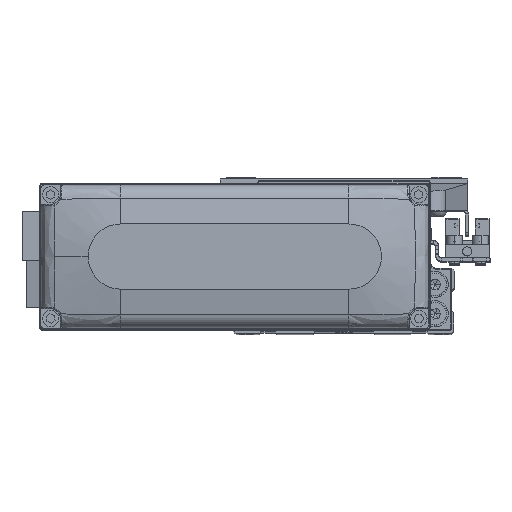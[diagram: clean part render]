
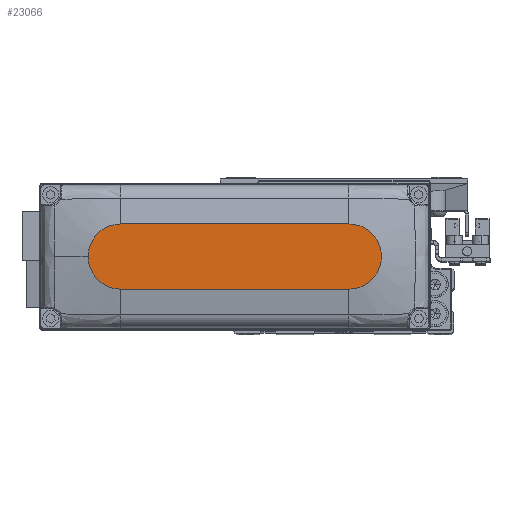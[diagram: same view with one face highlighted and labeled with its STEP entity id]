
A CAD part, top view. The second image highlights one B-rep face of the part: STEP entity #23066.
In plain terms, the highlighted planar face has unit normal (0, 0, 1).
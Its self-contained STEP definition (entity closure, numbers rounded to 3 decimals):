
#947 = LINE ( 'NONE', #14070, #11253 ) ;
#1660 = AXIS2_PLACEMENT_3D ( 'NONE', #10919, #24031, #37150 ) ;
#3332 = DIRECTION ( 'NONE',  ( -1., 0., 0. ) ) ;
#5138 = DIRECTION ( 'NONE',  ( 0., 0., 1. ) ) ;
#5311 = VERTEX_POINT ( 'NONE', #37564 ) ;
#7086 = EDGE_CURVE ( 'NONE', #35714, #8967, #34509, .T. ) ;
#7278 = DIRECTION ( 'NONE',  ( 1., 0., 0. ) ) ;
#8967 = VERTEX_POINT ( 'NONE', #28971 ) ;
#9879 = DIRECTION ( 'NONE',  ( 0., 0., 1. ) ) ;
#10919 = CARTESIAN_POINT ( 'NONE',  ( 35., 0., 28. ) ) ;
#11253 = VECTOR ( 'NONE', #27195, 1000. ) ;
#11763 = EDGE_CURVE ( 'NONE', #5311, #29563, #20223, .T. ) ;
#12217 = VECTOR ( 'NONE', #3332, 1000. ) ;
#12799 = AXIS2_PLACEMENT_3D ( 'NONE', #23636, #36760, #7278 ) ;
#13099 = FACE_OUTER_BOUND ( 'NONE', #26595, .T. ) ;
#14070 = CARTESIAN_POINT ( 'NONE',  ( -35., -10., 28. ) ) ;
#15557 = EDGE_CURVE ( 'NONE', #29563, #36496, #31342, .T. ) ;
#15970 = AXIS2_PLACEMENT_3D ( 'NONE', #34619, #5138, #18258 ) ;
#18258 = DIRECTION ( 'NONE',  ( 1., 0., 0. ) ) ;
#18858 = EDGE_CURVE ( 'NONE', #36496, #35714, #19677, .T. ) ;
#19677 = LINE ( 'NONE', #32799, #12217 ) ;
#20137 = ORIENTED_EDGE ( 'NONE', *, *, #15557, .T. ) ;
#20170 = ORIENTED_EDGE ( 'NONE', *, *, #11763, .T. ) ;
#20223 = CIRCLE ( 'NONE', #1660, 10. ) ;
#22996 = DIRECTION ( 'NONE',  ( 1., 0., 0. ) ) ;
#23066 = ADVANCED_FACE ( 'NONE', ( #13099 ), #26227, .T. ) ;
#23636 = CARTESIAN_POINT ( 'NONE',  ( 35., 0., 28. ) ) ;
#24031 = DIRECTION ( 'NONE',  ( 0., 0., 1. ) ) ;
#24751 = CARTESIAN_POINT ( 'NONE',  ( -35., 10., 28. ) ) ;
#24803 = CARTESIAN_POINT ( 'NONE',  ( 35., 10., 28. ) ) ;
#26227 = PLANE ( 'NONE',  #34238 ) ;
#26361 = ORIENTED_EDGE ( 'NONE', *, *, #18858, .T. ) ;
#26595 = EDGE_LOOP ( 'NONE', ( #26361, #35634, #36553, #20170, #20137 ) ) ;
#26716 = CARTESIAN_POINT ( 'NONE',  ( 45., 0., 28. ) ) ;
#27195 = DIRECTION ( 'NONE',  ( 1., 0., 0. ) ) ;
#28971 = CARTESIAN_POINT ( 'NONE',  ( -35., -10., 28. ) ) ;
#29563 = VERTEX_POINT ( 'NONE', #26716 ) ;
#31342 = CIRCLE ( 'NONE', #12799, 10. ) ;
#32799 = CARTESIAN_POINT ( 'NONE',  ( -35., 10., 28. ) ) ;
#34238 = AXIS2_PLACEMENT_3D ( 'NONE', #39359, #9879, #22996 ) ;
#34509 = CIRCLE ( 'NONE', #15970, 10. ) ;
#34619 = CARTESIAN_POINT ( 'NONE',  ( -35., 0., 28. ) ) ;
#35129 = EDGE_CURVE ( 'NONE', #8967, #5311, #947, .T. ) ;
#35634 = ORIENTED_EDGE ( 'NONE', *, *, #7086, .T. ) ;
#35714 = VERTEX_POINT ( 'NONE', #24751 ) ;
#36496 = VERTEX_POINT ( 'NONE', #24803 ) ;
#36553 = ORIENTED_EDGE ( 'NONE', *, *, #35129, .T. ) ;
#36760 = DIRECTION ( 'NONE',  ( 0., 0., 1. ) ) ;
#37150 = DIRECTION ( 'NONE',  ( 1., 0., 0. ) ) ;
#37564 = CARTESIAN_POINT ( 'NONE',  ( 35., -10., 28. ) ) ;
#39359 = CARTESIAN_POINT ( 'NONE',  ( 0., 0., 28. ) ) ;
